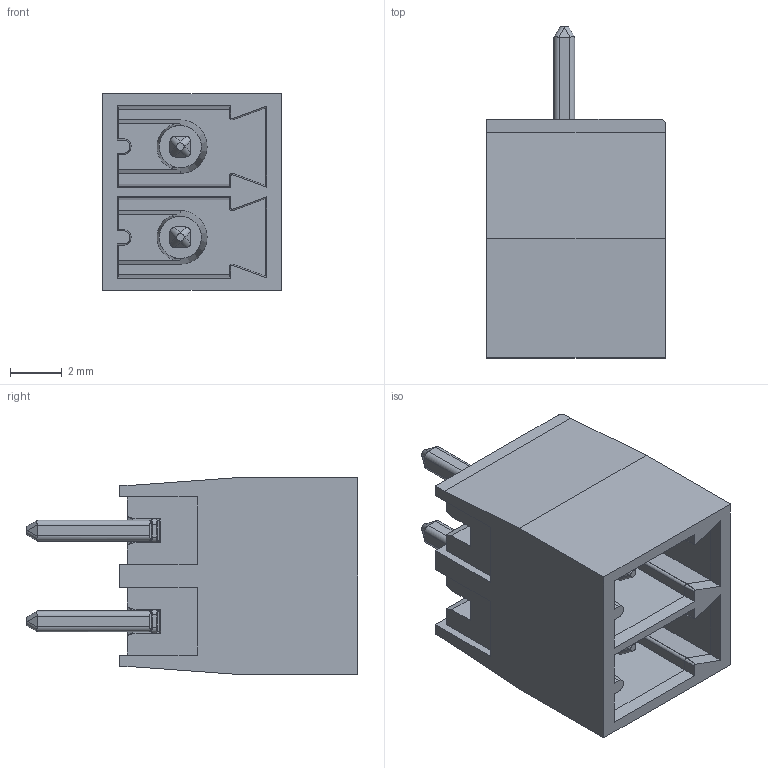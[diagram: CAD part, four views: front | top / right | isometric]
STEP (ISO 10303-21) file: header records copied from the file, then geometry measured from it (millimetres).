
FILE_DESCRIPTION (( 'STEP AP214' ), '1' );
FILE_NAME ('110-M-121-02.STEP', '2007-11-19T21:35:29', ( 'weco' ), ( 'weco' ), 'SwSTEP 2.0', 'SolidWorks 2007', '' );
FILE_SCHEMA (( 'AUTOMOTIVE_DESIGN' ));
Length unit declared in the file: millimetre
Products named in the file (1): 110-M-121-02
Bounding box: 6.9 x 12.8 x 7.6 mm (x, y, z)
Volume: 208.9 mm3; surface area: 775 mm2
Topology: 1 solids, 1 shells, 342 faces, 1028 edges, 656 vertices
Faces by surface type: plane 226, cylinder 104, cone 12
Entity records: 11986 total; most frequent: CARTESIAN_POINT 3530, ORIENTED_EDGE 2056, DIRECTION 1357, EDGE_CURVE 1028, VERTEX_POINT 656, LINE 615, VECTOR 615, AXIS2_PLACEMENT_3D 371
